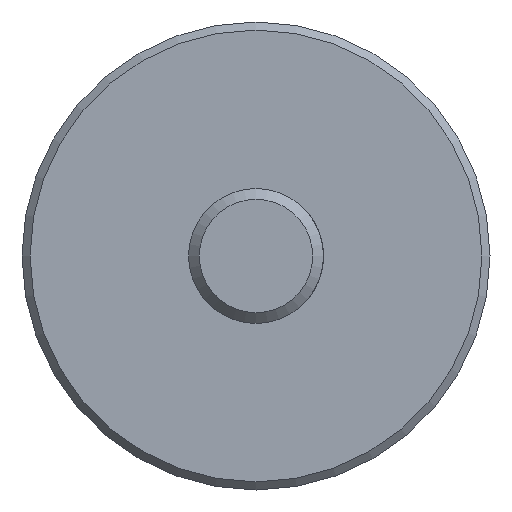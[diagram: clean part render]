
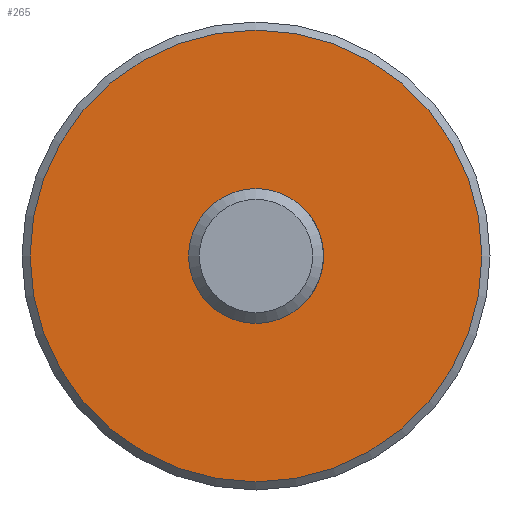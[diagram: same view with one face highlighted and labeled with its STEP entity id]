
A CAD part, front view. The second image highlights one B-rep face of the part: STEP entity #265.
In plain terms, the highlighted planar face has unit normal (0, -1, 0).
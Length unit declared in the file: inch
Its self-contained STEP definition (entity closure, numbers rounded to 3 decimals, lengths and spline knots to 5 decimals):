
#1 = CARTESIAN_POINT ( 'NONE',  ( 0., 3.35, 0. ) ) ;
#7 = EDGE_CURVE ( 'NONE', #296, #296, #573, .T. ) ;
#24 = CARTESIAN_POINT ( 'NONE',  ( 0., 3.35, 0.375 ) ) ;
#28 = VERTEX_POINT ( 'NONE', #348 ) ;
#42 = EDGE_LOOP ( 'NONE', ( #135 ) ) ;
#47 = CARTESIAN_POINT ( 'NONE',  ( 0., 3.35, 0. ) ) ;
#88 = EDGE_LOOP ( 'NONE', ( #138 ) ) ;
#90 = AXIS2_PLACEMENT_3D ( 'NONE', #1, #368, #520 ) ;
#135 = ORIENTED_EDGE ( 'NONE', *, *, #7, .T. ) ;
#138 = ORIENTED_EDGE ( 'NONE', *, *, #353, .F. ) ;
#172 = PLANE ( 'NONE',  #243 ) ;
#207 = AXIS2_PLACEMENT_3D ( 'NONE', #47, #364, #224 ) ;
#224 = DIRECTION ( 'NONE',  ( 0., 0., 1. ) ) ;
#243 = AXIS2_PLACEMENT_3D ( 'NONE', #258, #474, #468 ) ;
#252 = FACE_OUTER_BOUND ( 'NONE', #88, .T. ) ;
#253 = CIRCLE ( 'NONE', #207, 1.255 ) ;
#258 = CARTESIAN_POINT ( 'NONE',  ( 0.375, 3.35, 0. ) ) ;
#265 = ADVANCED_FACE ( 'NONE', ( #252, #516 ), #172, .F. ) ;
#296 = VERTEX_POINT ( 'NONE', #24 ) ;
#348 = CARTESIAN_POINT ( 'NONE',  ( 0., 3.35, 1.255 ) ) ;
#353 = EDGE_CURVE ( 'NONE', #28, #28, #253, .T. ) ;
#364 = DIRECTION ( 'NONE',  ( 0., 1., 0. ) ) ;
#368 = DIRECTION ( 'NONE',  ( 0., 1., 0. ) ) ;
#468 = DIRECTION ( 'NONE',  ( 0., 0., 1. ) ) ;
#474 = DIRECTION ( 'NONE',  ( 0., 1., 0. ) ) ;
#516 = FACE_BOUND ( 'NONE', #42, .T. ) ;
#520 = DIRECTION ( 'NONE',  ( 0., 0., 1. ) ) ;
#573 = CIRCLE ( 'NONE', #90, 0.375 ) ;
